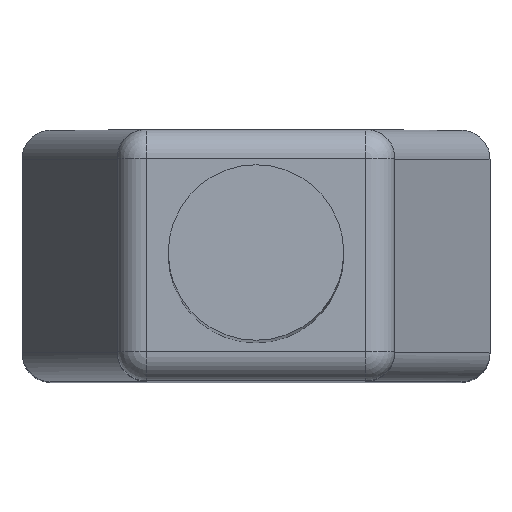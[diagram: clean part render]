
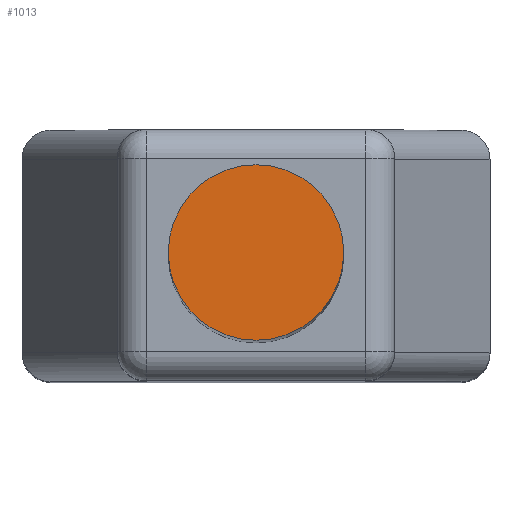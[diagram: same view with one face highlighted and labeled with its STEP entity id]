
A CAD part, top view. The second image highlights one B-rep face of the part: STEP entity #1013.
In plain terms, the highlighted planar face has unit normal (0, 0, 1).
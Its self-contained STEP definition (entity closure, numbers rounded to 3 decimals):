
#877 = VERTEX_POINT('',#878);
#878 = CARTESIAN_POINT('',(3.,0.,86.));
#884 = EDGE_CURVE('',#877,#877,#885,.T.);
#885 = CIRCLE('',#886,3.);
#886 = AXIS2_PLACEMENT_3D('',#887,#888,#889);
#887 = CARTESIAN_POINT('',(0.,0.,86.));
#888 = DIRECTION('',(0.,0.,1.));
#889 = DIRECTION('',(1.,0.,0.));
#1013 = ADVANCED_FACE('',(#1014),#1017,.T.);
#1014 = FACE_BOUND('',#1015,.T.);
#1015 = EDGE_LOOP('',(#1016));
#1016 = ORIENTED_EDGE('',*,*,#884,.T.);
#1017 = PLANE('',#1018);
#1018 = AXIS2_PLACEMENT_3D('',#1019,#1020,#1021);
#1019 = CARTESIAN_POINT('',(0.,0.,86.));
#1020 = DIRECTION('',(0.,0.,1.));
#1021 = DIRECTION('',(1.,0.,0.));
